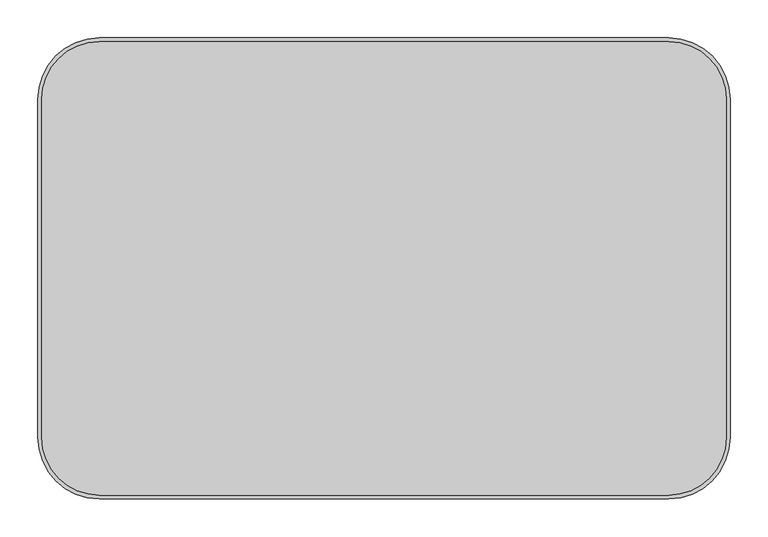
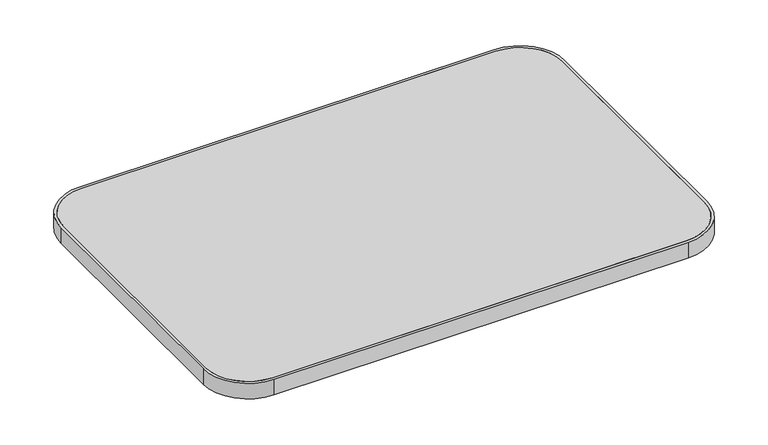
"""IFC4 building model written with IfcOpenShell, lengths in millimetres: furniture geometry, Steelcase - Answer Solution - Universal Table - Straight - 3mm Edge : 24D x 36W."""

from ifc_helpers import new_model, si_unit, point, frame, frame_2d, origin, place, context, project, spatial, polyline, circle_curve, trimmed, segment, composite_curve, outline, extrude, source, transform, mapped, element, save


def furniture_fb54aad2(model_context):
    return source(origin(), model_context, "Body", "SweptSolid", [
        extrude(outline(composite_curve([segment(polyline([(5.08, -528.32), (5.08, -81.28)]), True, "CONTINUOUS"), segment(trimmed(circle_curve(frame_2d((81.28, -81.28)), 76.2), [point((5.08, -81.28))], [point((81.28, -5.08))], False, "CARTESIAN"), True, "CONTINUOUS"), segment(polyline([(81.28, -5.08), (833.12, -5.08)]), True, "CONTINUOUS"), segment(trimmed(circle_curve(frame_2d((833.12, -81.28)), 76.2), [point((833.12, -5.08))], [point((909.32, -81.28))], False, "CARTESIAN"), True, "CONTINUOUS"), segment(polyline([(909.32, -81.28), (909.32, -528.32)]), True, "CONTINUOUS"), segment(trimmed(circle_curve(frame_2d((833.12, -528.32)), 76.2), [point((909.32, -528.32))], [point((833.12, -604.52))], False, "CARTESIAN"), True, "CONTINUOUS"), segment(polyline([(833.12, -604.52), (81.28, -604.52)]), True, "CONTINUOUS"), segment(trimmed(circle_curve(frame_2d((81.28, -528.32)), 76.2), [point((81.28, -604.52))], [point((5.08, -528.32))], False, "CARTESIAN"), True, "CONTINUOUS")], self_intersect=False)), frame((0.0, 0.0, 668.274), z_axis=(0.0, 0.0, 1.0), x_axis=(1.0, 0.0, 0.0)), (0.0, 0.0, 1.0), 30.0990349),
        extrude(outline(composite_curve([segment(polyline([(81.28, 0.0), (833.12, 0.0)]), True, "CONTINUOUS"), segment(trimmed(circle_curve(frame_2d((833.12, -81.28)), 81.28), [point((833.12, 0.0))], [point((914.4, -81.28))], False, "CARTESIAN"), True, "CONTINUOUS"), segment(polyline([(914.4, -81.28), (914.4, -528.32)]), True, "CONTINUOUS"), segment(trimmed(circle_curve(frame_2d((833.12, -528.32)), 81.28), [point((914.4, -528.32))], [point((833.12, -609.6))], False, "CARTESIAN"), True, "CONTINUOUS"), segment(polyline([(833.12, -609.6), (81.28, -609.6)]), True, "CONTINUOUS"), segment(trimmed(circle_curve(frame_2d((81.28, -528.32)), 81.28), [point((81.28, -609.6))], [point((0.0, -528.32))], False, "CARTESIAN"), True, "CONTINUOUS"), segment(polyline([(0.0, -528.32), (0.0, -81.28)]), True, "CONTINUOUS"), segment(trimmed(circle_curve(frame_2d((81.28, -81.28)), 81.28), [point((0.0, -81.28))], [point((81.28, 0.0))], False, "CARTESIAN"), True, "CONTINUOUS")], self_intersect=False), holes=[composite_curve([segment(trimmed(circle_curve(frame_2d((81.28, -81.28)), 76.2), [point((81.28, -5.08))], [point((5.08, -81.28))], True, "CARTESIAN"), True, "CONTINUOUS"), segment(polyline([(5.08, -81.28), (5.08, -528.32)]), True, "CONTINUOUS"), segment(trimmed(circle_curve(frame_2d((81.28, -528.32)), 76.2), [point((5.08, -528.32))], [point((81.28, -604.52))], True, "CARTESIAN"), True, "CONTINUOUS"), segment(polyline([(81.28, -604.52), (833.12, -604.52)]), True, "CONTINUOUS"), segment(trimmed(circle_curve(frame_2d((833.12, -528.32)), 76.2), [point((833.12, -604.52))], [point((909.32, -528.32))], True, "CARTESIAN"), True, "CONTINUOUS"), segment(polyline([(909.32, -528.32), (909.32, -81.28)]), True, "CONTINUOUS"), segment(trimmed(circle_curve(frame_2d((833.12, -81.28)), 76.2), [point((909.32, -81.28))], [point((833.12, -5.08))], True, "CARTESIAN"), True, "CONTINUOUS"), segment(polyline([(833.12, -5.08), (81.28, -5.08)]), True, "CONTINUOUS")], self_intersect=False)]), frame((0.0, 0.0, 668.274), z_axis=(0.0, 0.0, 1.0), x_axis=(1.0, 0.0, 0.0)), (0.0, 0.0, 1.0), 30.0990349),
    ])


if __name__ == "__main__":
    model = new_model("IFC4")
    model_context = context("Model", 3, world=origin())
    ifc_project = project(units=[si_unit("LENGTHUNIT", "METRE", prefix="MILLI")], contexts=[model_context])
    site = spatial("IfcSite", under=ifc_project)
    building = spatial("IfcBuilding", under=site)
    placement = place(None, origin())
    furniture_shape = furniture_fb54aad2(model_context)
    element("IfcFurniture", 1, ObjectType="Steelcase - Answer Solution - Universal Table - Straight - 3mm Edge : 24D x 36W", at=placement, inside=building, context=model_context, shape_type="MappedRepresentation", body=[
        mapped(furniture_shape, transform((0.0, 0.0, 0.0), x_axis=(1.0, 0.0, 0.0), y_axis=(0.0, 1.0, 0.0), z_axis=(0.0, 0.0, 1.0))),
    ])
    save(model, "model.ifc")
